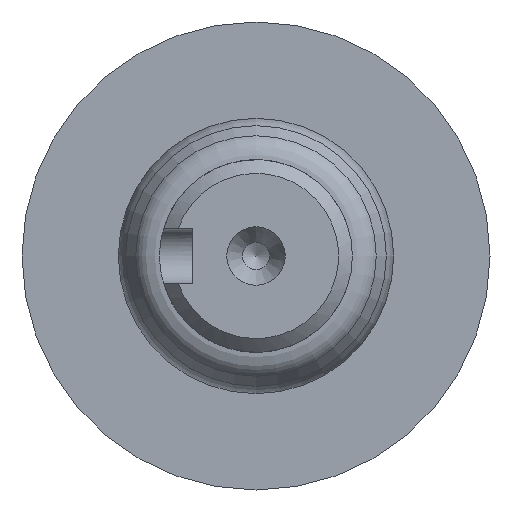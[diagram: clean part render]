
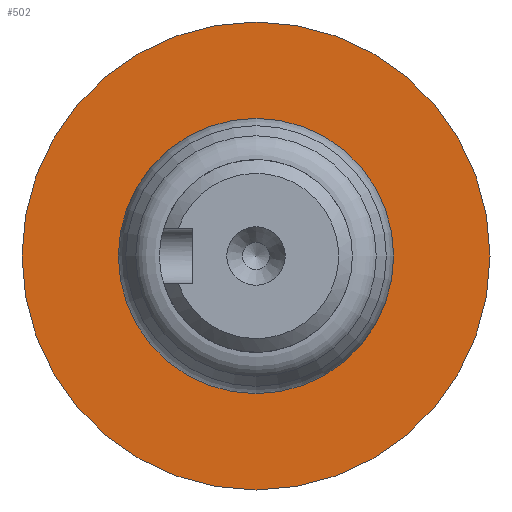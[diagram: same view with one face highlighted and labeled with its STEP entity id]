
A CAD part, left-side view. The second image highlights one B-rep face of the part: STEP entity #502.
In plain terms, the highlighted planar face has unit normal (-1, 0, 0).
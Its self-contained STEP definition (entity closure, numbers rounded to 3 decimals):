
#19=FACE_BOUND('',#110,.T.);
#39=PLANE('',#581);
#76=FACE_OUTER_BOUND('',#109,.T.);
#109=EDGE_LOOP('',(#442));
#110=EDGE_LOOP('',(#443));
#206=CIRCLE('',#580,5.);
#207=CIRCLE('',#582,8.5);
#253=VERTEX_POINT('',#932);
#254=VERTEX_POINT('',#936);
#318=EDGE_CURVE('',#253,#253,#206,.T.);
#320=EDGE_CURVE('',#254,#254,#207,.T.);
#442=ORIENTED_EDGE('',*,*,#320,.F.);
#443=ORIENTED_EDGE('',*,*,#318,.T.);
#502=ADVANCED_FACE('',(#76,#19),#39,.T.);
#580=AXIS2_PLACEMENT_3D('',#933,#718,#719);
#581=AXIS2_PLACEMENT_3D('',#935,#721,#722);
#582=AXIS2_PLACEMENT_3D('',#937,#723,#724);
#718=DIRECTION('center_axis',(1.,0.,0.));
#719=DIRECTION('ref_axis',(0.,0.,-1.));
#721=DIRECTION('center_axis',(-1.,0.,0.));
#722=DIRECTION('ref_axis',(0.,0.,1.));
#723=DIRECTION('center_axis',(1.,0.,0.));
#724=DIRECTION('ref_axis',(0.,0.,-1.));
#932=CARTESIAN_POINT('',(35.,-5.,0.));
#933=CARTESIAN_POINT('Origin',(35.,0.,0.));
#935=CARTESIAN_POINT('Origin',(35.,8.5,0.));
#936=CARTESIAN_POINT('',(35.,-8.5,0.));
#937=CARTESIAN_POINT('Origin',(35.,0.,0.));
